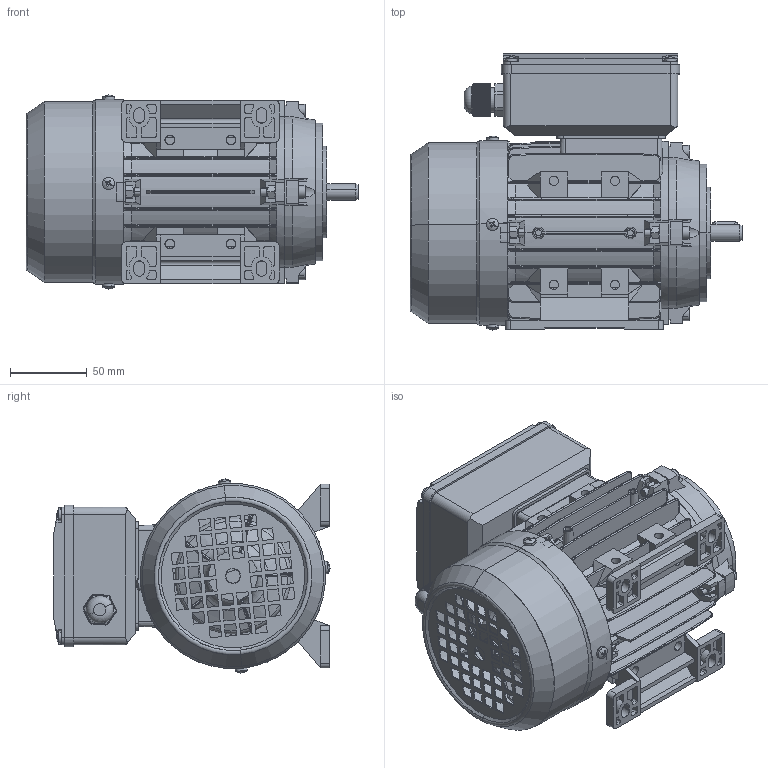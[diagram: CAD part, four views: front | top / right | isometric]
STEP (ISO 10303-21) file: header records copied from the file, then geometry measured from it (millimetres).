
FILE_DESCRIPTION (( 'STEP AP214' ), '1' );
FILE_NAME ('BMM0012.06B434.11.step', '2020-04-23T12:42:29', ( '' ), ( '' ), 'SwSTEP 2.0', 'SolidWorks 2019', '' );
FILE_SCHEMA (( 'AUTOMOTIVE_DESIGN' ));
Length unit declared in the file: millimetre
Products named in the file (1): BMM0012.06B434.11
Bounding box: 217 x 180.42 x 126.83 mm (x, y, z)
Volume: 551365.1 mm3; surface area: 422489 mm2
Topology: 36 solids, 36 shells, 3154 faces, 8231 edges, 5196 vertices
Faces by surface type: plane 1694, cylinder 993, cone 202, sphere 90, bspline 88, torus 87
Entity records: 109263 total; most frequent: CARTESIAN_POINT 32499, ORIENTED_EDGE 16342, DIRECTION 15415, EDGE_CURVE 8171, AXIS2_PLACEMENT_3D 5388, VERTEX_POINT 5196, LINE 4639, VECTOR 4639
